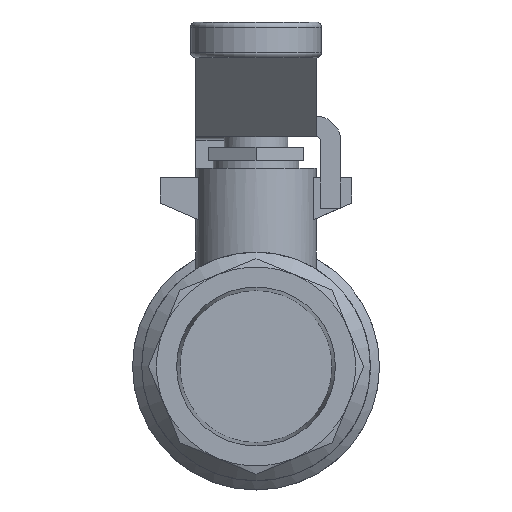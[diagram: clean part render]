
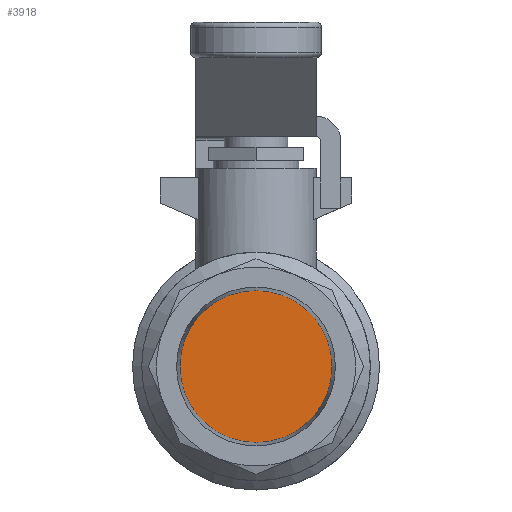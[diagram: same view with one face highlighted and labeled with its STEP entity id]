
A CAD part, left-side view. The second image highlights one B-rep face of the part: STEP entity #3918.
In plain terms, the highlighted free-form (B-spline) face has degree [1, 1] with [2, 2] control points.
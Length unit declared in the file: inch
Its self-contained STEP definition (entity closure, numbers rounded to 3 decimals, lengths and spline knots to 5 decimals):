
#3902=CARTESIAN_POINT('',(3.99573,-6.06439,1.61343));
#3903=CARTESIAN_POINT('',(3.99573,-6.80943,1.61343));
#3904=CARTESIAN_POINT('',(3.99573,-6.06439,0.86839));
#3905=CARTESIAN_POINT('',(3.99573,-6.80943,0.86839));
#3906=B_SPLINE_SURFACE_WITH_KNOTS('',1,1,((#3902,#3904),(#3903,#3905)),.UNSPECIFIED.,.F.,.F.,.U.,(2,2),(2,2),(0.0,0.74504),(0.0,0.74504),.UNSPECIFIED.);
#3907=CARTESIAN_POINT('',(3.99573,-6.06439,1.24091));
#3908=VERTEX_POINT('',#3907);
#3909=CARTESIAN_POINT('',(3.99573,-6.43691,1.24091));
#3910=DIRECTION('',(1.0,0.0,0.0));
#3911=DIRECTION('',(0.0,1.0,0.0));
#3912=AXIS2_PLACEMENT_3D('',#3909,#3910,#3911);
#3913=CIRCLE('',#3912,0.37252);
#3914=EDGE_CURVE('',#3908,#3908,#3913,.T.);
#3915=ORIENTED_EDGE('',*,*,#3914,.F.);
#3916=EDGE_LOOP('',(#3915));
#3917=FACE_OUTER_BOUND('',#3916,.T.);
#3918=ADVANCED_FACE('',(#3917),#3906,.F.);
